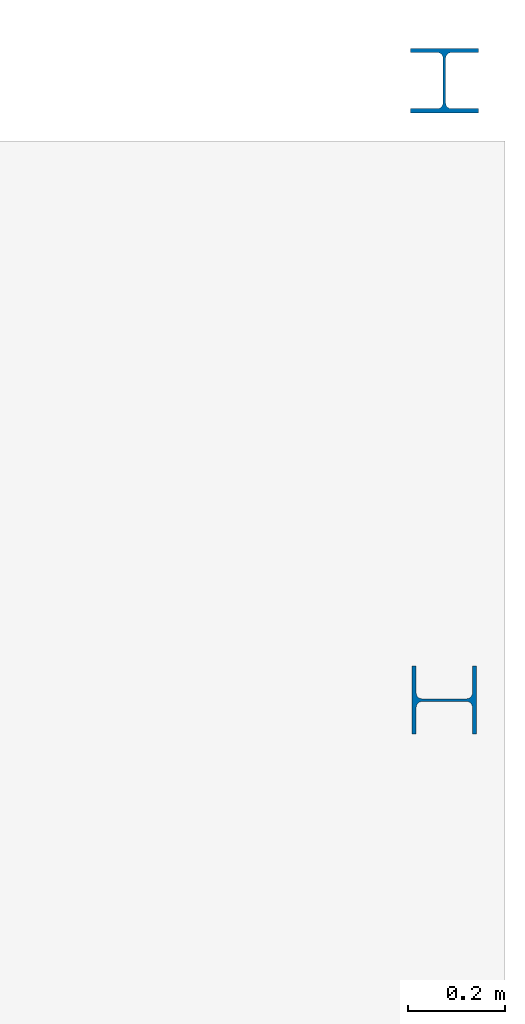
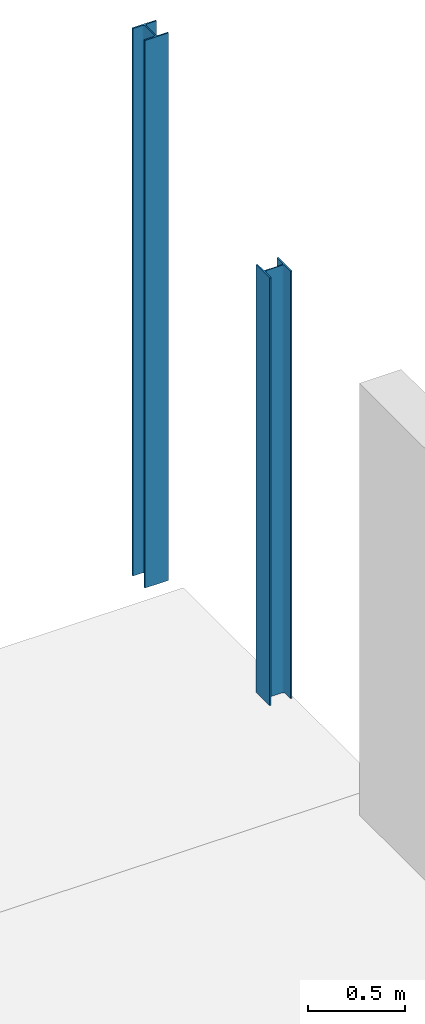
# One storey, part 9 of 22: 2 columns.
"""IFC2X3 building model written with IfcOpenShell, lengths in millimetres."""

from ifc_helpers import new_model, entity, si_unit, converted_unit, derived_unit, direction, frame, frame_2d, origin, place, context, subcontext, project, spatial, polyline, circle_curve, parameter, trimmed, segment, composite_curve, i_section, outline, extrude, source, transform, mapped, material, type_object, type_shapes, element, save


model = new_model("IFC2X3")

# Units and contexts
model_context = context("Model", 3, precision=0.01, world=origin(), true_north=direction((6.12303176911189e-17, 1.0)))
body_context = subcontext(model_context, "Body", "Model", "MODEL_VIEW")
ifc_project = project(units=[si_unit("LENGTHUNIT", "METRE", prefix="MILLI"), si_unit("AREAUNIT", "SQUARE_METRE"), si_unit("VOLUMEUNIT", "CUBIC_METRE"), converted_unit("PLANEANGLEUNIT", "DEGREE", entity("IfcRatioMeasure", 0.0174532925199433), si_unit("PLANEANGLEUNIT", "RADIAN"), dimensions=[0, 0, 0, 0, 0, 0, 0]), si_unit("MASSUNIT", "GRAM", prefix="KILO"), derived_unit("MASSDENSITYUNIT", [(si_unit("MASSUNIT", "GRAM", prefix="KILO"), 1), (si_unit("LENGTHUNIT", "METRE"), -3)]), si_unit("TIMEUNIT", "SECOND"), si_unit("FREQUENCYUNIT", "HERTZ"), si_unit("THERMODYNAMICTEMPERATUREUNIT", "DEGREE_CELSIUS"), derived_unit("THERMALTRANSMITTANCEUNIT", [(si_unit("MASSUNIT", "GRAM", prefix="KILO"), 1), (si_unit("THERMODYNAMICTEMPERATUREUNIT", "KELVIN"), -1), (si_unit("TIMEUNIT", "SECOND"), -3)]), derived_unit("VOLUMETRICFLOWRATEUNIT", [(si_unit("LENGTHUNIT", "METRE"), 3), (si_unit("TIMEUNIT", "SECOND"), -1)]), si_unit("ELECTRICCURRENTUNIT", "AMPERE"), si_unit("ELECTRICVOLTAGEUNIT", "VOLT"), si_unit("POWERUNIT", "WATT"), si_unit("FORCEUNIT", "NEWTON", prefix="KILO"), si_unit("ILLUMINANCEUNIT", "LUX"), si_unit("LUMINOUSFLUXUNIT", "LUMEN"), si_unit("LUMINOUSINTENSITYUNIT", "CANDELA"), derived_unit("USERDEFINED", [(si_unit("MASSUNIT", "GRAM", prefix="KILO"), -1), (si_unit("LENGTHUNIT", "METRE"), -2), (si_unit("TIMEUNIT", "SECOND"), 3), (si_unit("LUMINOUSFLUXUNIT", "LUMEN"), 1)]), derived_unit("LINEARVELOCITYUNIT", [(si_unit("LENGTHUNIT", "METRE"), 1), (si_unit("TIMEUNIT", "SECOND"), -1)]), si_unit("PRESSUREUNIT", "PASCAL"), derived_unit("USERDEFINED", [(si_unit("LENGTHUNIT", "METRE"), -2), (si_unit("MASSUNIT", "GRAM", prefix="KILO"), 1), (si_unit("TIMEUNIT", "SECOND"), -2)])], contexts=[model_context])

# Site, building, storey
site_placement = place(None, origin())
site = spatial("IfcSite", under=ifc_project, at=site_placement, Name="Default", CompositionType="ELEMENT")
building_placement = place(site_placement, origin())
building = spatial("IfcBuilding", under=site, at=building_placement, Name="niet gebruiken", CompositionType="ELEMENT")
storey_placement = place(building_placement, frame((0.0, 0.0, 9630.0)))
storey = spatial("IfcBuildingStorey", under=building, at=storey_placement, Name="03 derde verdieping", CompositionType="ELEMENT", Elevation=9630.00000000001)

# Columns
ifc_material = material(Name="NLRS_h2_staal")
column_type_1 = type_object("IfcColumnType", Name="kolom HEA 140", PredefinedType="COLUMN", material=ifc_material)
shared_shape_1 = source(origin(), body_context, "Body", "SweptSolid", [
    extrude(outline(composite_curve([segment(polyline([(58.0, -70.0), (66.4999999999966, -70.0)]), True, "CONTINUOUS"), segment(polyline([(66.4999999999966, -70.0), (66.4999999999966, 70.0)]), True, "CONTINUOUS"), segment(polyline([(66.4999999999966, 70.0), (58.0, 70.0)]), True, "CONTINUOUS"), segment(polyline([(58.0, 70.0), (58.0, 14.7499999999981)]), True, "CONTINUOUS"), segment(trimmed(circle_curve(frame_2d((46.0, 14.7499999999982), x_axis=(1.0, 0.0)), 12.0), [parameter(270.0)], [parameter(0.0)], True, "PARAMETER"), False, "CONTINUOUS"), segment(polyline([(46.0, 2.74999999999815), (-46.0, 2.74999999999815)]), True, "CONTINUOUS"), segment(trimmed(circle_curve(frame_2d((-46.0, 14.7499999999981), x_axis=(0.0, -1.0)), 12.0), [parameter(270.0)], [parameter(0.0)], True, "PARAMETER"), False, "CONTINUOUS"), segment(polyline([(-58.0, 14.7499999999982), (-58.0, 70.0)]), True, "CONTINUOUS"), segment(polyline([(-58.0, 70.0), (-66.4999999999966, 70.0)]), True, "CONTINUOUS"), segment(polyline([(-66.4999999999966, 70.0), (-66.4999999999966, -70.0)]), True, "CONTINUOUS"), segment(polyline([(-66.4999999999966, -70.0), (-58.0, -70.0)]), True, "CONTINUOUS"), segment(polyline([(-58.0, -70.0), (-58.0, -14.7500000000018)]), True, "CONTINUOUS"), segment(trimmed(circle_curve(frame_2d((-46.0, -14.7500000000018), x_axis=(-1.0, 0.0)), 12.0), [parameter(270.0)], [parameter(0.0)], True, "PARAMETER"), False, "CONTINUOUS"), segment(polyline([(-46.0, -2.75000000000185), (46.0, -2.75000000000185)]), True, "CONTINUOUS"), segment(trimmed(circle_curve(frame_2d((46.0, -14.7500000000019), x_axis=(0.0, 1.0)), 12.0), [parameter(270.0)], [parameter(0.0)], True, "PARAMETER"), False, "CONTINUOUS"), segment(polyline([(58.0, -14.7500000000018), (58.0, -70.0)]), True, "CONTINUOUS")], self_intersect=False)), frame((0.0, 0.0, 9550.0), z_axis=(0.0, 0.0, 1.0), x_axis=(0.0, -1.0, 0.0)), (0.0, 0.0, 1.0), 3450.0),
])
type_shapes(column_type_1, [shared_shape_1])
column_1_placement = place(storey_placement, frame((124075.0, 53131.0, -9630.0), z_axis=(0.0, 0.0, 1.0), x_axis=(-1.0, 0.0, 0.0)))
element("IfcColumn", 1, at=column_1_placement, inside=storey, type_object=column_type_1, material=ifc_material, Name="NLRS_28.11_SCO_TLB_stalen kolom HEA_gen:kolom HEA 140", ObjectType="kolom HEA 140", context=body_context, shape_type="MappedRepresentation", body=[
    mapped(shared_shape_1, transform((0.0, 0.0, 0.0), scale=1.0)),
])
column_type_2 = type_object("IfcColumnType", Name="kolom HEA 140", PredefinedType="COLUMN", material=ifc_material)
shared_shape_2 = source(origin(), body_context, "Body", "SweptSolid", [
    extrude(i_section(OverallWidth=140.000000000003, OverallDepth=132.999999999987, WebThickness=5.49999999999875, FlangeThickness=8.50000000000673, FilletRadius=11.9999999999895, at=frame_2d((-4.32720526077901e-12, 1.73230318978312e-11), x_axis=(1.0, 0.0))), frame((124075.0, 51853.5009765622, 9585.0), z_axis=(0.0, 0.0, 1.0), x_axis=(0.0, -1.0, 0.0)), (0.0, 0.0, 1.0), 2695.0),
])
type_shapes(column_type_2, [shared_shape_2])
column_2_placement = place(storey_placement, frame((0.0, 0.0, -9630.0)))
element("IfcColumn", 2, at=column_2_placement, inside=storey, type_object=column_type_2, material=ifc_material, Name="NLRS_28.11_SCO_TLB_stalen kolom HEA_gen:kolom HEA 140", ObjectType="kolom HEA 140", context=body_context, shape_type="MappedRepresentation", body=[
    mapped(shared_shape_2, transform((0.0, 0.0, 0.0), scale=1.0)),
])

save(model, "model.ifc")
